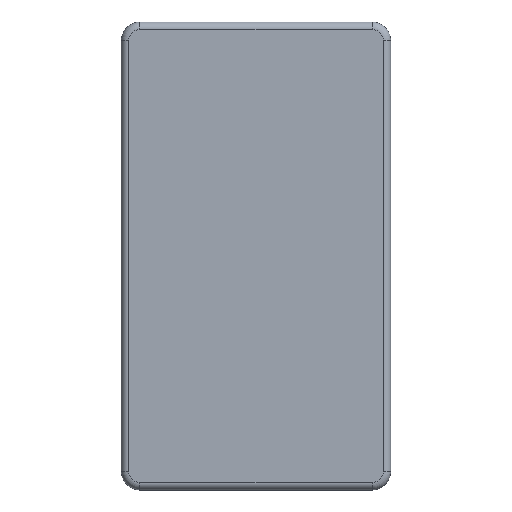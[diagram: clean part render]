
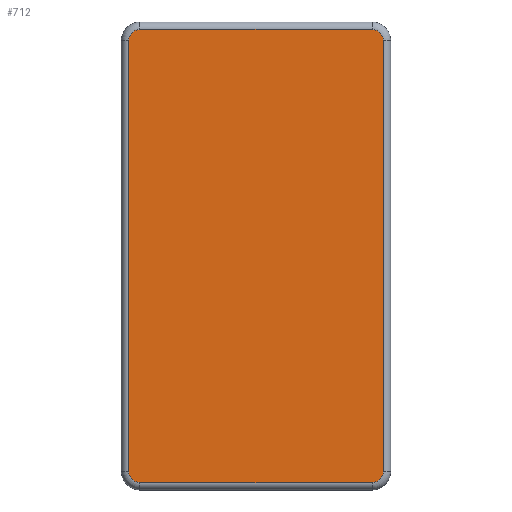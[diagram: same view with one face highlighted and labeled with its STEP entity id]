
A CAD part, front view. The second image highlights one B-rep face of the part: STEP entity #712.
In plain terms, the highlighted planar face has unit normal (0, -1, 0).
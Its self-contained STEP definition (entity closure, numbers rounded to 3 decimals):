
#32=PLANE('',#801);
#66=FACE_OUTER_BOUND('',#111,.T.);
#111=EDGE_LOOP('',(#557,#558,#559,#560,#561,#562,#563,#564));
#158=LINE('',#1154,#218);
#160=LINE('',#1168,#220);
#162=LINE('',#1182,#222);
#163=LINE('',#1190,#223);
#218=VECTOR('',#915,10.);
#220=VECTOR('',#931,10.);
#222=VECTOR('',#947,10.);
#223=VECTOR('',#958,10.);
#268=CIRCLE('',#773,3.);
#275=CIRCLE('',#782,3.);
#277=CIRCLE('',#786,3.);
#284=CIRCLE('',#795,3.);
#324=VERTEX_POINT('',#1142);
#325=VERTEX_POINT('',#1144);
#327=VERTEX_POINT('',#1150);
#329=VERTEX_POINT('',#1156);
#332=VERTEX_POINT('',#1164);
#334=VERTEX_POINT('',#1170);
#337=VERTEX_POINT('',#1178);
#339=VERTEX_POINT('',#1184);
#396=EDGE_CURVE('',#324,#325,#268,.T.);
#401=EDGE_CURVE('',#325,#327,#158,.T.);
#405=EDGE_CURVE('',#327,#329,#275,.T.);
#408=EDGE_CURVE('',#329,#332,#160,.T.);
#409=EDGE_CURVE('',#332,#334,#277,.T.);
#415=EDGE_CURVE('',#334,#337,#162,.T.);
#418=EDGE_CURVE('',#337,#339,#284,.T.);
#419=EDGE_CURVE('',#339,#324,#163,.T.);
#557=ORIENTED_EDGE('',*,*,#396,.F.);
#558=ORIENTED_EDGE('',*,*,#419,.F.);
#559=ORIENTED_EDGE('',*,*,#418,.F.);
#560=ORIENTED_EDGE('',*,*,#415,.F.);
#561=ORIENTED_EDGE('',*,*,#409,.F.);
#562=ORIENTED_EDGE('',*,*,#408,.F.);
#563=ORIENTED_EDGE('',*,*,#405,.F.);
#564=ORIENTED_EDGE('',*,*,#401,.F.);
#712=ADVANCED_FACE('',(#66),#32,.T.);
#773=AXIS2_PLACEMENT_3D('',#1145,#904,#905);
#782=AXIS2_PLACEMENT_3D('',#1162,#924,#925);
#786=AXIS2_PLACEMENT_3D('',#1171,#934,#935);
#795=AXIS2_PLACEMENT_3D('',#1188,#954,#955);
#801=AXIS2_PLACEMENT_3D('',#1202,#972,#973);
#904=DIRECTION('center_axis',(0.,1.,0.));
#905=DIRECTION('ref_axis',(0.707,0.,0.707));
#915=DIRECTION('',(0.,0.,-1.));
#924=DIRECTION('center_axis',(0.,1.,0.));
#925=DIRECTION('ref_axis',(0.707,0.,-0.707));
#931=DIRECTION('',(-1.,0.,0.));
#934=DIRECTION('center_axis',(0.,1.,0.));
#935=DIRECTION('ref_axis',(-0.707,0.,-0.707));
#947=DIRECTION('',(0.,0.,1.));
#954=DIRECTION('center_axis',(0.,1.,0.));
#955=DIRECTION('ref_axis',(-0.707,0.,0.707));
#958=DIRECTION('',(1.,0.,0.));
#972=DIRECTION('center_axis',(0.,-1.,0.));
#973=DIRECTION('ref_axis',(0.,0.,-1.));
#1142=CARTESIAN_POINT('',(31.,-2.,60.5));
#1144=CARTESIAN_POINT('',(34.,-2.,57.5));
#1145=CARTESIAN_POINT('Origin',(31.,-2.,57.5));
#1150=CARTESIAN_POINT('',(34.,-2.,-57.5));
#1154=CARTESIAN_POINT('',(34.,-2.,-32.25));
#1156=CARTESIAN_POINT('',(31.,-2.,-60.5));
#1162=CARTESIAN_POINT('Origin',(31.,-2.,-57.5));
#1164=CARTESIAN_POINT('',(-31.,-2.,-60.5));
#1168=CARTESIAN_POINT('',(-19.75,-2.,-60.5));
#1170=CARTESIAN_POINT('',(-34.,-2.,-57.5));
#1171=CARTESIAN_POINT('Origin',(-31.,-2.,-57.5));
#1178=CARTESIAN_POINT('',(-34.,-2.,57.5));
#1182=CARTESIAN_POINT('',(-34.,-2.,32.25));
#1184=CARTESIAN_POINT('',(-31.,-2.,60.5));
#1188=CARTESIAN_POINT('Origin',(-31.,-2.,57.5));
#1190=CARTESIAN_POINT('',(19.75,-2.,60.5));
#1202=CARTESIAN_POINT('Origin',(0.,-2.,0.));
